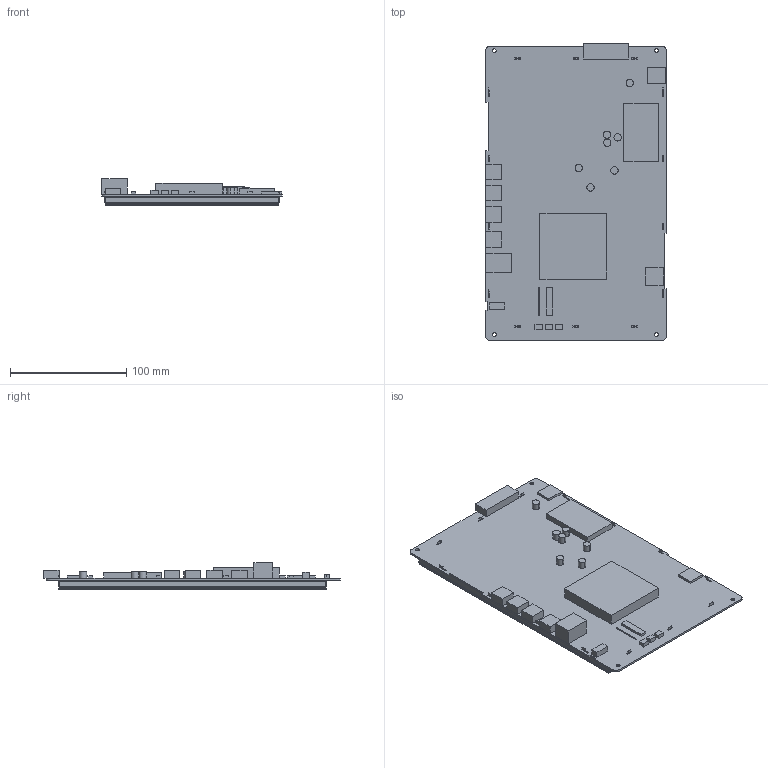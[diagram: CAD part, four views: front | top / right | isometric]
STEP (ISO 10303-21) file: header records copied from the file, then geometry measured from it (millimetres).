
FILE_DESCRIPTION((''),'2;1');
FILE_NAME('3D-DMG12800T101-33WTC','2021-10-29T',('Administrator'),(''),'PRO/ENGINEER BY PARAMETRIC TECHNOLOGY CORPORATION, 2011310','PRO/ENGINEER BY PARAMETRIC TECHNOLOGY CORPORATION, 2011310','');
FILE_SCHEMA(('CONFIG_CONTROL_DESIGN','SHAPE_APPEARANCE_LAYERS_GROUPS'));
Length unit declared in the file: millimetre
Products named in the file (1): 3D-DMG12800T101-33WTC
Bounding box: 155.32 x 254.99 x 23.07 mm (x, y, z)
Volume: 337139.2 mm3; surface area: 232524.6 mm2
Topology: 1 solids, 1 shells, 385 faces, 1132 edges, 738 vertices
Faces by surface type: plane 353, cylinder 32
Entity records: 15050 total; most frequent: ORIENTED_EDGE 2264, CARTESIAN_POINT 2255, DIRECTION 1966, EDGE_CURVE 1132, VECTOR 1068, LINE 1068, VERTEX_POINT 738, AXIS2_PLACEMENT_3D 449
